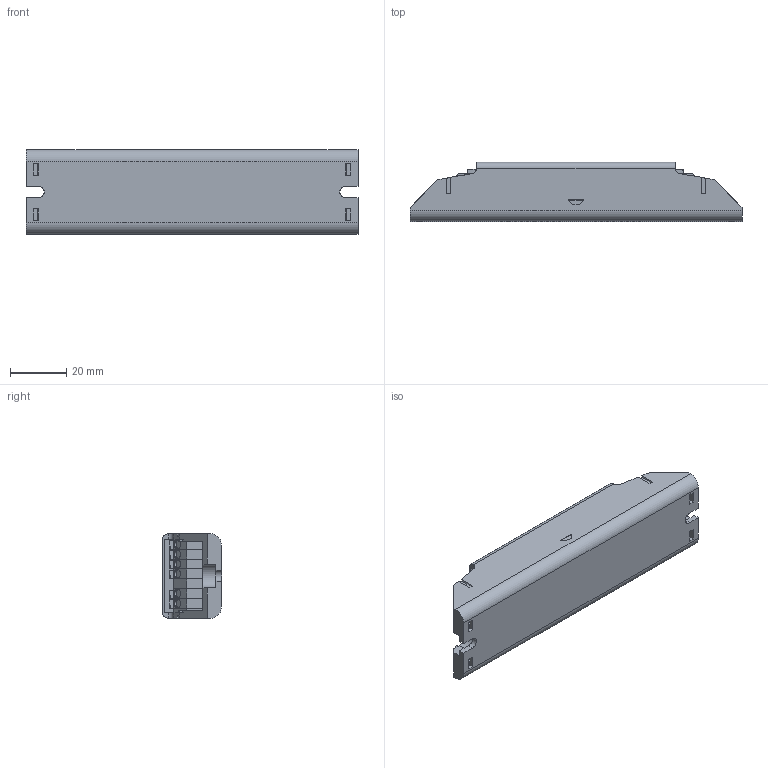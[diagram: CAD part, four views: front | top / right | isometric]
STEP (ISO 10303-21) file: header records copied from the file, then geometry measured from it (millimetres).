
FILE_DESCRIPTION (( 'STEP AP203' ), '1' );
FILE_NAME ('9C1-4547650-000-00.STP', '2025-06-16T09:27:58', ( '' ), ( '' ), 'SwSTEP 2.0', 'SolidWorks 2023', '' );
FILE_SCHEMA (( 'CONFIG_CONTROL_DESIGN' ));
Length unit declared in the file: millimetre
Products named in the file (1): 9C1-4547650-000-00
Bounding box: 118 x 21 x 30 mm (x, y, z)
Volume: 56678.3 mm3; surface area: 14498.6 mm2
Topology: 1 solids, 1 shells, 551 faces, 1467 edges, 926 vertices
Faces by surface type: plane 485, cylinder 46, cone 16, sphere 4
Full cylindrical faces by diameter (mm): 0.6 x4, 3 x2
Entity records: 16726 total; most frequent: CARTESIAN_POINT 2979, ORIENTED_EDGE 2910, DIRECTION 2651, EDGE_CURVE 1455, LINE 1331, VECTOR 1331, VERTEX_POINT 924, AXIS2_PLACEMENT_3D 660
